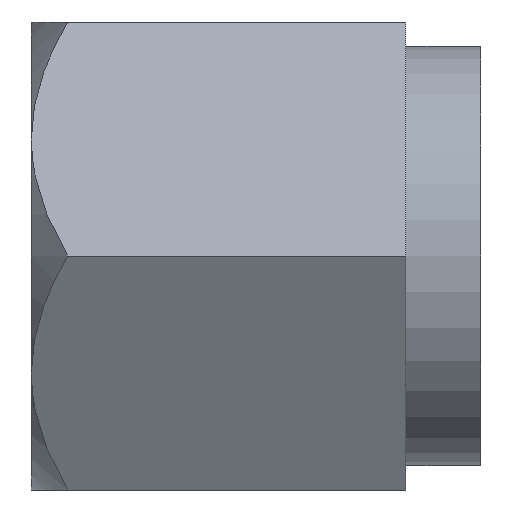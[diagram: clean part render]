
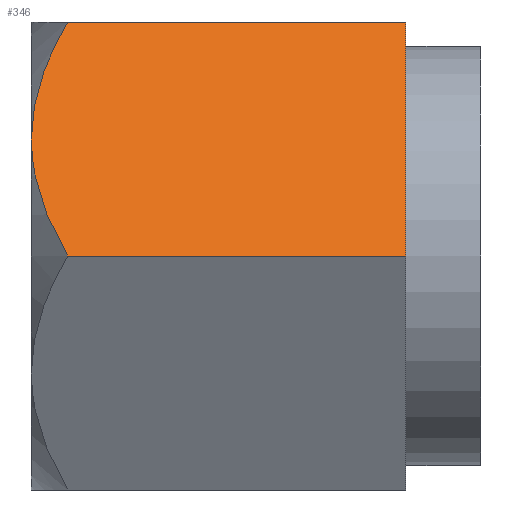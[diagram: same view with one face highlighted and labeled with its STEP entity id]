
A CAD part, left-side view. The second image highlights one B-rep face of the part: STEP entity #346.
In plain terms, the highlighted planar face has unit normal (-0.866, 0, 0.5).
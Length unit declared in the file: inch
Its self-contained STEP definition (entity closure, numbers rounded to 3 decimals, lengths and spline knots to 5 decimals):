
#14=DIRECTION('',(0.5,0.,0.866));
#15=VECTOR('',#14,0.18042);
#16=CARTESIAN_POINT('',(-0.18042,0.,0.));
#17=LINE('',#16,#15);
#48=CARTESIAN_POINT('',(-0.18042,0.22583,0.));
#49=CARTESIAN_POINT('',(-0.17702,0.22923,
0.00589));
#50=CARTESIAN_POINT('',(-0.17041,0.23525,
0.01733));
#51=CARTESIAN_POINT('',(-0.16126,0.2419,
0.03319));
#52=CARTESIAN_POINT('',(-0.15245,0.24659,
0.04845));
#53=CARTESIAN_POINT('',(-0.14385,0.24938,
0.06335));
#54=CARTESIAN_POINT('',(-0.13815,0.25,0.07322));
#55=CARTESIAN_POINT('',(-0.13532,0.25,0.07813));
#57=CARTESIAN_POINT('',(-0.13532,0.25,0.07813));
#58=CARTESIAN_POINT('',(-0.13295,0.25,0.08222));
#59=CARTESIAN_POINT('',(-0.12821,0.24957,
0.09044));
#60=CARTESIAN_POINT('',(-0.12106,0.24763,
0.10282));
#61=CARTESIAN_POINT('',(-0.1138,0.24439,
0.11539));
#62=CARTESIAN_POINT('',(-0.10635,0.23981,
0.1283));
#63=CARTESIAN_POINT('',(-0.09858,0.23379,
0.14175));
#64=CARTESIAN_POINT('',(-0.09305,0.22867,
0.15133));
#65=CARTESIAN_POINT('',(-0.09021,0.22583,0.15625));
#67=DIRECTION('',(0.,1.,0.));
#68=VECTOR('',#67,0.22583);
#69=CARTESIAN_POINT('',(-0.18042,0.,0.));
#70=LINE('',#69,#68);
#239=CARTESIAN_POINT('',(-0.09021,0.22583,0.15625));
#258=DIRECTION('',(0.,1.,0.));
#259=VECTOR('',#258,0.22583);
#260=CARTESIAN_POINT('',(-0.09021,0.,0.15625));
#261=LINE('',#260,#259);
#262=CARTESIAN_POINT('',(-0.18042,0.,0.));
#263=CARTESIAN_POINT('',(-0.09021,0.,0.15625));
#264=VERTEX_POINT('',#262);
#265=VERTEX_POINT('',#263);
#290=CARTESIAN_POINT('',(-0.13532,0.25,0.07813));
#292=VERTEX_POINT('',#290);
#294=VERTEX_POINT('',#48);
#295=VERTEX_POINT('',#239);
#330=CARTESIAN_POINT('',(-0.18042,0.,0.));
#331=DIRECTION('',(-0.866,0.,0.5));
#332=DIRECTION('',(0.5,0.,0.866));
#333=AXIS2_PLACEMENT_3D('',#330,#331,#332);
#334=PLANE('',#333);
#336=ORIENTED_EDGE('',*,*,#335,.T.);
#338=ORIENTED_EDGE('',*,*,#337,.T.);
#340=ORIENTED_EDGE('',*,*,#339,.F.);
#341=ORIENTED_EDGE('',*,*,#309,.F.);
#343=ORIENTED_EDGE('',*,*,#342,.T.);
#344=EDGE_LOOP('',(#336,#338,#340,#341,#343));
#345=FACE_OUTER_BOUND('',#344,.F.);
#346=ADVANCED_FACE('',(#345),#334,.T.);
#56=B_SPLINE_CURVE_WITH_KNOTS('',3,(#48,#49,#50,#51,#52,#53,#54,#55),
.UNSPECIFIED.,.F.,.F.,(4,1,1,1,1,4),(0.,0.2,0.4,0.6,0.8,1.),
.UNSPECIFIED.);
#66=B_SPLINE_CURVE_WITH_KNOTS('',3,(#57,#58,#59,#60,#61,#62,#63,#64,#65),
.UNSPECIFIED.,.F.,.F.,(4,1,1,1,1,1,4),(0.,0.16667,0.33333,
0.5,0.66667,0.83333,1.),.UNSPECIFIED.);
#309=EDGE_CURVE('',#264,#265,#17,.T.);
#335=EDGE_CURVE('',#294,#292,#56,.T.);
#337=EDGE_CURVE('',#292,#295,#66,.T.);
#339=EDGE_CURVE('',#265,#295,#261,.T.);
#342=EDGE_CURVE('',#264,#294,#70,.T.);
